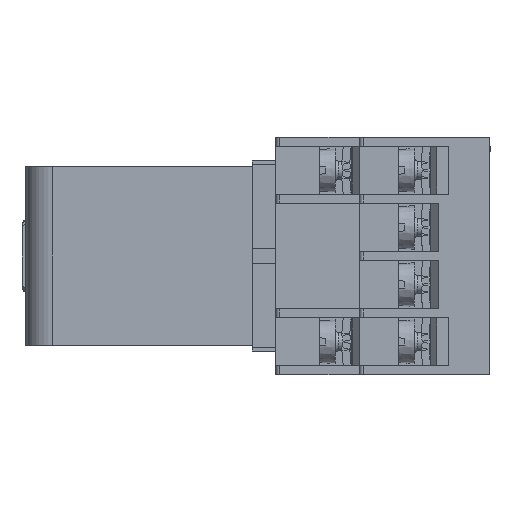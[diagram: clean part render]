
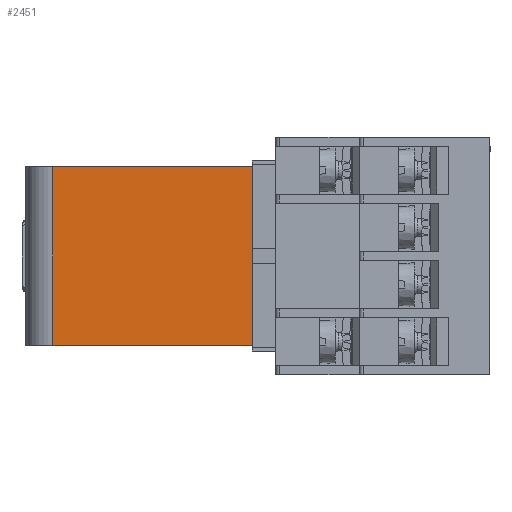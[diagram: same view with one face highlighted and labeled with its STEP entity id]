
A CAD part, left-side view. The second image highlights one B-rep face of the part: STEP entity #2451.
In plain terms, the highlighted planar face has unit normal (-1, 0, 0).
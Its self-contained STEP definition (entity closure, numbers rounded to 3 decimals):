
#2451=ADVANCED_FACE('',(#37456),#37458,.T.);
#37456=FACE_BOUND('',#37457,.T.);
#37457=EDGE_LOOP('',(#71795,#71796,#71797,#71798,#71799,#71800));
#37458=PLANE('',#37459);
#37459=AXIS2_PLACEMENT_3D('',#37460,#37461,#37462);
#37460=CARTESIAN_POINT('',(-16.375,30.,11.25));
#37461=DIRECTION('',(-1.,0.,0.));
#37462=DIRECTION('',(0.,1.,0.));
#71795=ORIENTED_EDGE('',*,*,#92483,.T.);
#71796=ORIENTED_EDGE('',*,*,#93092,.F.);
#71797=ORIENTED_EDGE('',*,*,#92471,.T.);
#71798=ORIENTED_EDGE('',*,*,#93095,.T.);
#71799=ORIENTED_EDGE('',*,*,#93096,.T.);
#71800=ORIENTED_EDGE('',*,*,#93097,.F.);
#92471=EDGE_CURVE('',#103712,#103710,#103713,.T.);
#92483=EDGE_CURVE('',#103725,#103731,#103733,.T.);
#93092=EDGE_CURVE('',#103712,#103731,#104725,.T.);
#93095=EDGE_CURVE('',#103710,#104728,#104729,.T.);
#93096=EDGE_CURVE('',#104728,#104730,#104731,.T.);
#93097=EDGE_CURVE('',#103725,#104730,#104732,.T.);
#103710=VERTEX_POINT('',#122486);
#103712=VERTEX_POINT('',#122490);
#103713=LINE('',#122491,#122492);
#103725=VERTEX_POINT('',#122519);
#103731=VERTEX_POINT('',#122531);
#103733=LINE('',#122535,#122536);
#104725=LINE('',#124768,#124769);
#104728=VERTEX_POINT('',#124777);
#104729=LINE('',#124778,#124779);
#104730=VERTEX_POINT('',#124781);
#104731=LINE('',#124782,#124783);
#104732=LINE('',#124785,#124786);
#122486=CARTESIAN_POINT('',(-16.375,30.,11.25));
#122490=CARTESIAN_POINT('',(-16.375,30.,1.));
#122491=CARTESIAN_POINT('',(-16.375,30.,1.));
#122492=VECTOR('',#122493,1.);
#122493=DIRECTION('',(0.,0.,1.));
#122519=CARTESIAN_POINT('',(-16.375,30.,-11.25));
#122531=CARTESIAN_POINT('',(-16.375,30.,-1.));
#122535=CARTESIAN_POINT('',(-16.375,30.,-11.25));
#122536=VECTOR('',#122537,1.);
#122537=DIRECTION('',(0.,0.,1.));
#124768=CARTESIAN_POINT('',(-16.375,30.,1.));
#124769=VECTOR('',#124770,1.);
#124770=DIRECTION('',(0.,0.,-1.));
#124777=CARTESIAN_POINT('',(-16.375,55.1,11.25));
#124778=CARTESIAN_POINT('',(-16.375,30.,11.25));
#124779=VECTOR('',#124780,1.);
#124780=DIRECTION('',(0.,1.,0.));
#124781=CARTESIAN_POINT('',(-16.375,55.1,-11.25));
#124782=CARTESIAN_POINT('',(-16.375,55.1,11.25));
#124783=VECTOR('',#124784,1.);
#124784=DIRECTION('',(0.,0.,-1.));
#124785=CARTESIAN_POINT('',(-16.375,30.,-11.25));
#124786=VECTOR('',#124787,1.);
#124787=DIRECTION('',(0.,1.,0.));
